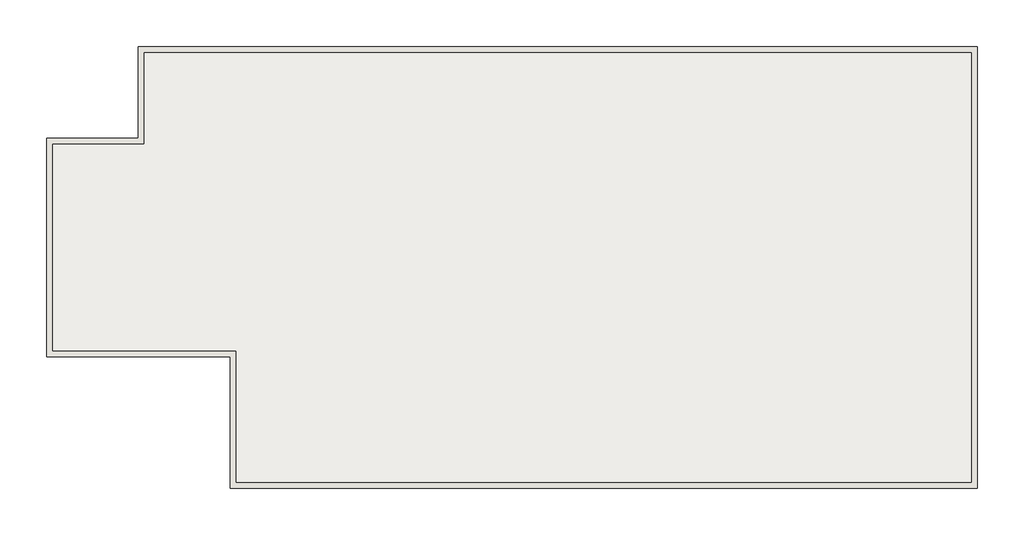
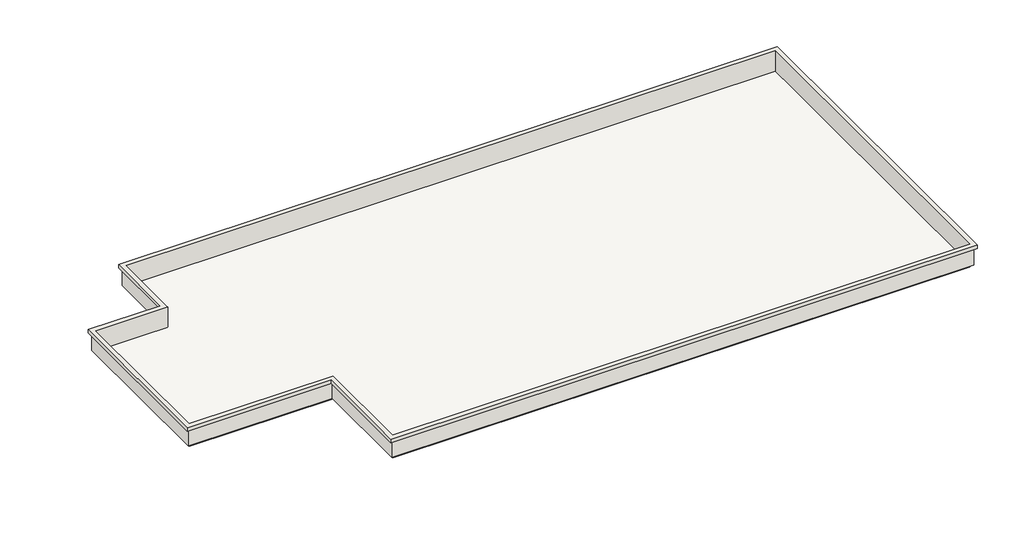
# One storey: 1 slab, 1 wall.
"""IFC4 building model written with IfcOpenShell, lengths in millimetres."""

from ifc_helpers import new_model, si_unit, frame, origin, place, context, project, spatial, polyline, outline, extrude, transform, mapped, element, save
from components import wall_ed209919

model = new_model("IFC4")

# Units and contexts
model_context = context("Model", 3, world=origin())
ifc_project = project(units=[si_unit("LENGTHUNIT", "METRE", prefix="MILLI")], contexts=[model_context])

# Site, building, storey
site = spatial("IfcSite", under=ifc_project)
building = spatial("IfcBuilding", under=site)
storey = spatial("IfcBuildingStorey", under=building, Name="标高 5", Elevation=7400.0)

# Slab
placement = place(None, origin())
element("IfcSlab", 1, ObjectType="楼板-120mm", at=placement, inside=storey, context=model_context, shape_type="SweptSolid", body=[
    extrude(outline(polyline([(-3574.8947527, 2391.231639), (-574.8947527, 2391.231639), (-574.8947527, 5391.231639), (26465.1052473, 5391.231639), (26465.1052473, -8648.768361), (2425.1052473, -8648.768361), (2425.1052473, -4348.768361), (-3574.8947527, -4348.768361), (-3574.8947527, 2391.231639)])), frame((0.0, 0.0, 7280.0), z_axis=(0.0, 0.0, 1.0), x_axis=(1.0, 0.0, 0.0)), (0.0, 0.0, 1.0), 120.0),
])

# Wall
wall_shape = wall_ed209919(model_context)
element("IfcWall", 2, ObjectType="墙 4 : 墙 4", at=placement, inside=storey, context=model_context, shape_type="MappedRepresentation", body=[
    mapped(wall_shape, transform((0.0, 0.0, -900.0), x_axis=(1.0, 0.0, 0.0), y_axis=(0.0, 1.0, 0.0), z_axis=(0.0, 0.0, 1.0))),
])

save(model, "model.ifc")
